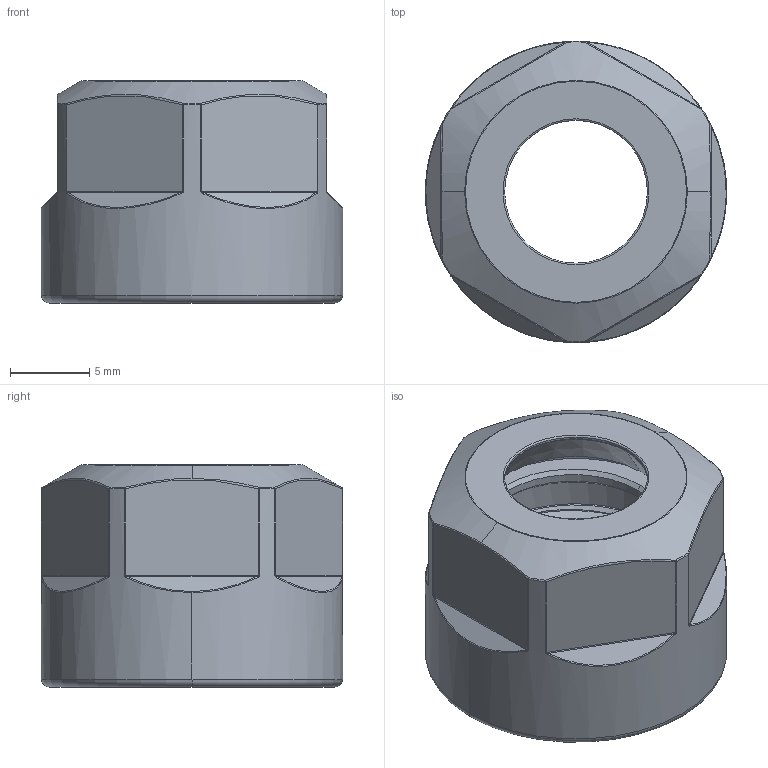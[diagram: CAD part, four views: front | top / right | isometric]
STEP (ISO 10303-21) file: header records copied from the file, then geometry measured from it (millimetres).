
FILE_DESCRIPTION (( 'STEP AP203' ), '1' );
FILE_NAME ('ER11-A.STEP', '2018-08-09T10:35:36', ( 'User' ), ( '' ), 'SwSTEP 2.0', 'SolidWorks 2017', '' );
FILE_SCHEMA (( 'CONFIG_CONTROL_DESIGN' ));
Length unit declared in the file: millimetre
Products named in the file (1): ER11-A
Bounding box: 19 x 19 x 14 mm (x, y, z)
Volume: 1720.9 mm3; surface area: 1984 mm2
Topology: 1 solids, 1 shells, 121 faces, 270 edges, 154 vertices
Faces by surface type: cylinder 37, bspline 27, plane 19, torus 14, cone 12, sphere 12
Entity records: 5011 total; most frequent: CARTESIAN_POINT 2478, ORIENTED_EDGE 540, DIRECTION 501, EDGE_CURVE 270, AXIS2_PLACEMENT_3D 218, VERTEX_POINT 154, EDGE_LOOP 126, CIRCLE 123
